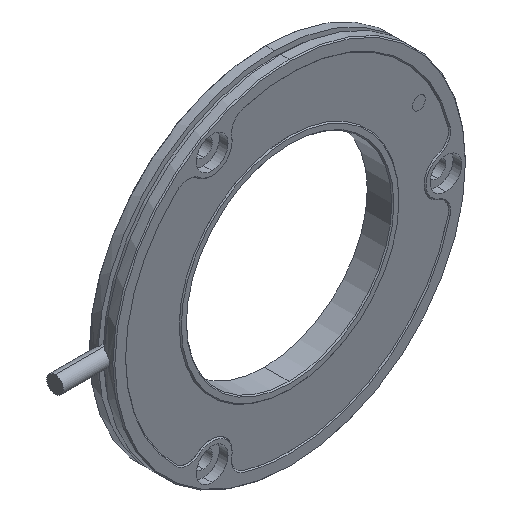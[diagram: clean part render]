
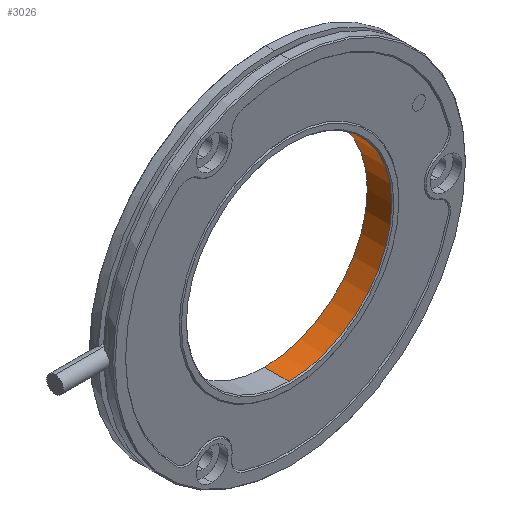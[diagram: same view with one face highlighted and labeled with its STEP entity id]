
A CAD part, isometric view. The second image highlights one B-rep face of the part: STEP entity #3026.
In plain terms, the highlighted cylindrical face has radius 20.1 mm (diameter 40.2 mm), a partial arc.
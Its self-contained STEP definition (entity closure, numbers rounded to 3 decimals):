
#83 = EDGE_CURVE ( 'NONE', #5781, #1104, #2747, .T. ) ;
#295 = AXIS2_PLACEMENT_3D ( 'NONE', #3220, #694, #5271 ) ;
#322 = VECTOR ( 'NONE', #945, 1000. ) ;
#343 = EDGE_LOOP ( 'NONE', ( #2945, #853, #1774, #4356 ) ) ;
#530 = VECTOR ( 'NONE', #2251, 1000. ) ;
#553 = CARTESIAN_POINT ( 'NONE',  ( 0., 5., 0. ) ) ;
#694 = DIRECTION ( 'NONE',  ( 0., 1., 0. ) ) ;
#853 = ORIENTED_EDGE ( 'NONE', *, *, #1822, .T. ) ;
#945 = DIRECTION ( 'NONE',  ( 0., -1., 0. ) ) ;
#1104 = VERTEX_POINT ( 'NONE', #2723 ) ;
#1438 = CARTESIAN_POINT ( 'NONE',  ( 0., 5., -20.1 ) ) ;
#1656 = VERTEX_POINT ( 'NONE', #5612 ) ;
#1774 = ORIENTED_EDGE ( 'NONE', *, *, #4561, .T. ) ;
#1822 = EDGE_CURVE ( 'NONE', #5781, #2161, #3606, .T. ) ;
#1823 = CARTESIAN_POINT ( 'NONE',  ( 0., 5., -20.1 ) ) ;
#2161 = VERTEX_POINT ( 'NONE', #1823 ) ;
#2251 = DIRECTION ( 'NONE',  ( 0., -1., 0. ) ) ;
#2719 = DIRECTION ( 'NONE',  ( 0., 0., 1. ) ) ;
#2723 = CARTESIAN_POINT ( 'NONE',  ( 0., 0.2, 20.1 ) ) ;
#2747 = LINE ( 'NONE', #3295, #530 ) ;
#2945 = ORIENTED_EDGE ( 'NONE', *, *, #83, .F. ) ;
#3026 = ADVANCED_FACE ( 'NONE', ( #5464 ), #3126, .F. ) ;
#3126 = CYLINDRICAL_SURFACE ( 'NONE', #5055, 20.1 ) ;
#3220 = CARTESIAN_POINT ( 'NONE',  ( 0., 5., 0. ) ) ;
#3295 = CARTESIAN_POINT ( 'NONE',  ( 0., 5., 20.1 ) ) ;
#3606 = CIRCLE ( 'NONE', #295, 20.1 ) ;
#3811 = AXIS2_PLACEMENT_3D ( 'NONE', #4192, #5534, #2719 ) ;
#3834 = LINE ( 'NONE', #1438, #322 ) ;
#4192 = CARTESIAN_POINT ( 'NONE',  ( 0., 0.2, 0. ) ) ;
#4356 = ORIENTED_EDGE ( 'NONE', *, *, #5452, .T. ) ;
#4561 = EDGE_CURVE ( 'NONE', #2161, #1656, #3834, .T. ) ;
#4797 = CIRCLE ( 'NONE', #3811, 20.1 ) ;
#5055 = AXIS2_PLACEMENT_3D ( 'NONE', #553, #5733, #5826 ) ;
#5271 = DIRECTION ( 'NONE',  ( 0., 0., 1. ) ) ;
#5452 = EDGE_CURVE ( 'NONE', #1656, #1104, #4797, .T. ) ;
#5464 = FACE_OUTER_BOUND ( 'NONE', #343, .T. ) ;
#5534 = DIRECTION ( 'NONE',  ( 0., -1., 0. ) ) ;
#5612 = CARTESIAN_POINT ( 'NONE',  ( 0., 0.2, -20.1 ) ) ;
#5733 = DIRECTION ( 'NONE',  ( 0., -1., 0. ) ) ;
#5756 = CARTESIAN_POINT ( 'NONE',  ( 0., 5., 20.1 ) ) ;
#5781 = VERTEX_POINT ( 'NONE', #5756 ) ;
#5826 = DIRECTION ( 'NONE',  ( 0., 0., -1. ) ) ;
